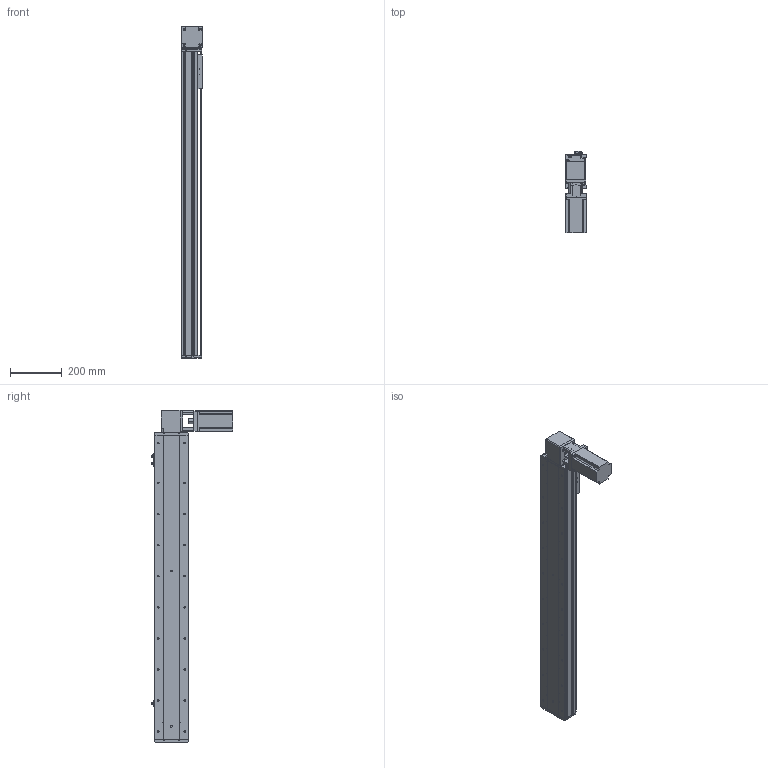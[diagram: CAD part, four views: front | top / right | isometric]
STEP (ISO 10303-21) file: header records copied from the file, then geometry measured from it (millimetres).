
FILE_DESCRIPTION (( 'STEP AP214' ), '1' );
FILE_NAME ('KSD130B-S950-MRT-CM.STEP', '2019-11-16T03:30:31', ( '微软用户' ), ( '微软中国' ), 'SwSTEP 2.0', 'SolidWorks 2014', '' );
FILE_SCHEMA (( 'AUTOMOTIVE_DESIGN' ));
Length unit declared in the file: millimetre
Products named in the file (12): 覜茼え100遵圉猾敕; U倰嫖萇EEㄜSX672; 130宽安装板同步带带电机座750W; 130宽盖板半封闭同步带-950行程; 130宽马达安装板同步带左-改; 130宽马达安装板同步带半封闭; 130宽同步带安装座半封闭; 130宽端盖同步带半封闭; 130宽底板半封闭同步带-950行程; KSD130B-S950-MRT-CM; 台达ECMA－C20807AS伺服电机; 130宽马达安装板1-带电机座750W（1）
Assembly tree (13 placements, depth 2):
  KSD130B-S950-MRT-CM
    130宽底板半封闭同步带-950行程
    130宽端盖同步带半封闭
    130宽同步带安装座半封闭
    130宽马达安装板同步带半封闭
    130宽马达安装板同步带左-改
    130宽盖板半封闭同步带-950行程
    130宽安装板同步带带电机座750W
    U倰嫖萇EEㄜSX672  x3
    覜茼え100遵圉猾敕
    130宽马达安装板1-带电机座750W（1）
    台达ECMA－C20807AS伺服电机
Bounding box: 81 x 316 x 1283 mm (x, y, z)
Volume: 4829175.2 mm3; surface area: 1271262 mm2
Topology: 14 solids, 14 shells, 1507 faces, 4292 edges, 2741 vertices
Faces by surface type: cylinder 725, plane 605, cone 177
Entity records: 49407 total; most frequent: CARTESIAN_POINT 9139, DIRECTION 7526, ORIENTED_EDGE 7228, EDGE_CURVE 3614, AXIS2_PLACEMENT_3D 2760, VERTEX_POINT 2365, LINE 2006, VECTOR 2006
